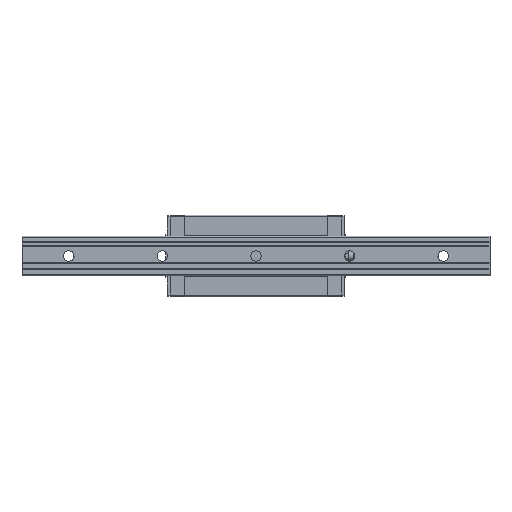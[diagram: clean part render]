
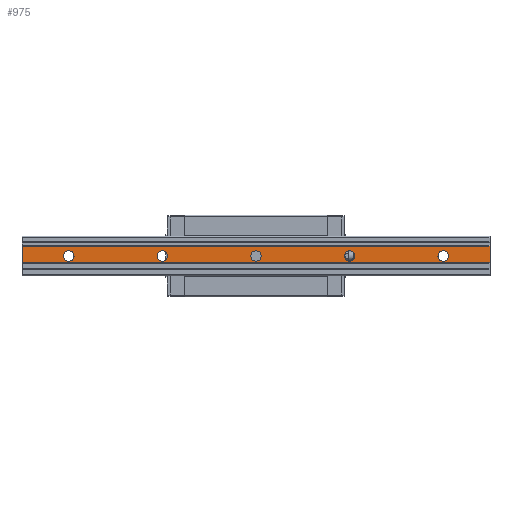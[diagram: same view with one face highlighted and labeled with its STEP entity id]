
A CAD part, front view. The second image highlights one B-rep face of the part: STEP entity #975.
In plain terms, the highlighted planar face has unit normal (0, -1, 0).
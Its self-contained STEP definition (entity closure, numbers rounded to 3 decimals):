
#228=CARTESIAN_POINT('',(224.242,-216.057,-30.5));
#229=VERTEX_POINT('',#228);
#230=CARTESIAN_POINT('',(224.242,-216.057,-35.));
#231=DIRECTION('',(0.0,1.0,0.0));
#232=DIRECTION('',(0.0,0.0,1.0));
#233=AXIS2_PLACEMENT_3D('',#230,#231,#232);
#234=CIRCLE('',#233,4.5);
#235=EDGE_CURVE('',#229,#229,#234,.T.);
#256=CARTESIAN_POINT('',(304.242,-216.057,-30.5));
#257=VERTEX_POINT('',#256);
#258=CARTESIAN_POINT('',(304.242,-216.057,-35.));
#259=DIRECTION('',(0.0,1.0,0.0));
#260=DIRECTION('',(0.0,0.0,1.0));
#261=AXIS2_PLACEMENT_3D('',#258,#259,#260);
#262=CIRCLE('',#261,4.5);
#263=EDGE_CURVE('',#257,#257,#262,.T.);
#284=CARTESIAN_POINT('',(384.242,-216.057,-30.5));
#285=VERTEX_POINT('',#284);
#286=CARTESIAN_POINT('',(384.242,-216.057,-35.));
#287=DIRECTION('',(0.0,1.0,0.0));
#288=DIRECTION('',(0.0,0.0,1.0));
#289=AXIS2_PLACEMENT_3D('',#286,#287,#288);
#290=CIRCLE('',#289,4.5);
#291=EDGE_CURVE('',#285,#285,#290,.T.);
#312=CARTESIAN_POINT('',(464.242,-216.057,-30.5));
#313=VERTEX_POINT('',#312);
#314=CARTESIAN_POINT('',(464.242,-216.057,-35.));
#315=DIRECTION('',(0.0,1.0,0.0));
#316=DIRECTION('',(0.0,0.0,1.0));
#317=AXIS2_PLACEMENT_3D('',#314,#315,#316);
#318=CIRCLE('',#317,4.5);
#319=EDGE_CURVE('',#313,#313,#318,.T.);
#340=CARTESIAN_POINT('',(544.242,-216.057,-30.5));
#341=VERTEX_POINT('',#340);
#342=CARTESIAN_POINT('',(544.242,-216.057,-35.));
#343=DIRECTION('',(0.0,1.0,0.0));
#344=DIRECTION('',(0.0,0.0,1.0));
#345=AXIS2_PLACEMENT_3D('',#342,#343,#344);
#346=CIRCLE('',#345,4.5);
#347=EDGE_CURVE('',#341,#341,#346,.T.);
#368=CARTESIAN_POINT('',(584.242,-216.057,-26.5));
#369=VERTEX_POINT('',#368);
#386=CARTESIAN_POINT('',(184.242,-216.057,-26.5));
#387=VERTEX_POINT('',#386);
#394=CARTESIAN_POINT('',(584.242,-216.057,-26.5));
#395=DIRECTION('',(-1.0,0.0,0.0));
#396=VECTOR('',#395,400.0);
#397=LINE('',#394,#396);
#398=EDGE_CURVE('',#369,#387,#397,.T.);
#764=CARTESIAN_POINT('',(584.242,-216.057,-40.5));
#765=VERTEX_POINT('',#764);
#772=CARTESIAN_POINT('',(184.242,-216.057,-40.5));
#773=VERTEX_POINT('',#772);
#774=CARTESIAN_POINT('',(184.242,-216.057,-40.5));
#775=DIRECTION('',(1.0,0.0,0.0));
#776=VECTOR('',#775,400.0);
#777=LINE('',#774,#776);
#778=EDGE_CURVE('',#773,#765,#777,.T.);
#939=CARTESIAN_POINT('',(584.242,-216.057,-40.5));
#940=DIRECTION('',(0.0,-1.0,0.0));
#941=DIRECTION('',(0.0,0.0,-1.0));
#942=AXIS2_PLACEMENT_3D('',#939,#940,#941);
#943=PLANE('',#942);
#944=CARTESIAN_POINT('',(584.242,-216.057,-40.5));
#945=DIRECTION('',(0.0,0.0,1.0));
#946=VECTOR('',#945,14.);
#947=LINE('',#944,#946);
#948=EDGE_CURVE('',#765,#369,#947,.T.);
#949=ORIENTED_EDGE('',*,*,#948,.T.);
#950=ORIENTED_EDGE('',*,*,#398,.T.);
#951=CARTESIAN_POINT('',(184.242,-216.057,-40.5));
#952=DIRECTION('',(0.0,0.0,1.0));
#953=VECTOR('',#952,14.);
#954=LINE('',#951,#953);
#955=EDGE_CURVE('',#773,#387,#954,.T.);
#956=ORIENTED_EDGE('',*,*,#955,.F.);
#957=ORIENTED_EDGE('',*,*,#778,.T.);
#958=EDGE_LOOP('',(#949,#950,#956,#957));
#959=FACE_OUTER_BOUND('',#958,.T.);
#960=ORIENTED_EDGE('',*,*,#235,.T.);
#961=EDGE_LOOP('',(#960));
#962=FACE_BOUND('',#961,.T.);
#963=ORIENTED_EDGE('',*,*,#263,.T.);
#964=EDGE_LOOP('',(#963));
#965=FACE_BOUND('',#964,.T.);
#966=ORIENTED_EDGE('',*,*,#291,.T.);
#967=EDGE_LOOP('',(#966));
#968=FACE_BOUND('',#967,.T.);
#969=ORIENTED_EDGE('',*,*,#319,.T.);
#970=EDGE_LOOP('',(#969));
#971=FACE_BOUND('',#970,.T.);
#972=ORIENTED_EDGE('',*,*,#347,.T.);
#973=EDGE_LOOP('',(#972));
#974=FACE_BOUND('',#973,.T.);
#975=ADVANCED_FACE('',(#959,#962,#965,#968,#971,#974),#943,.T.);
